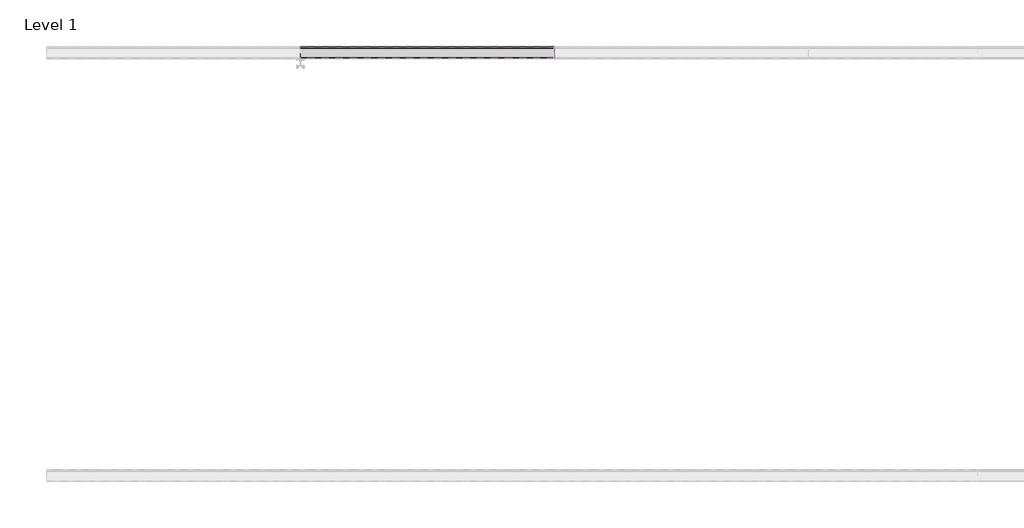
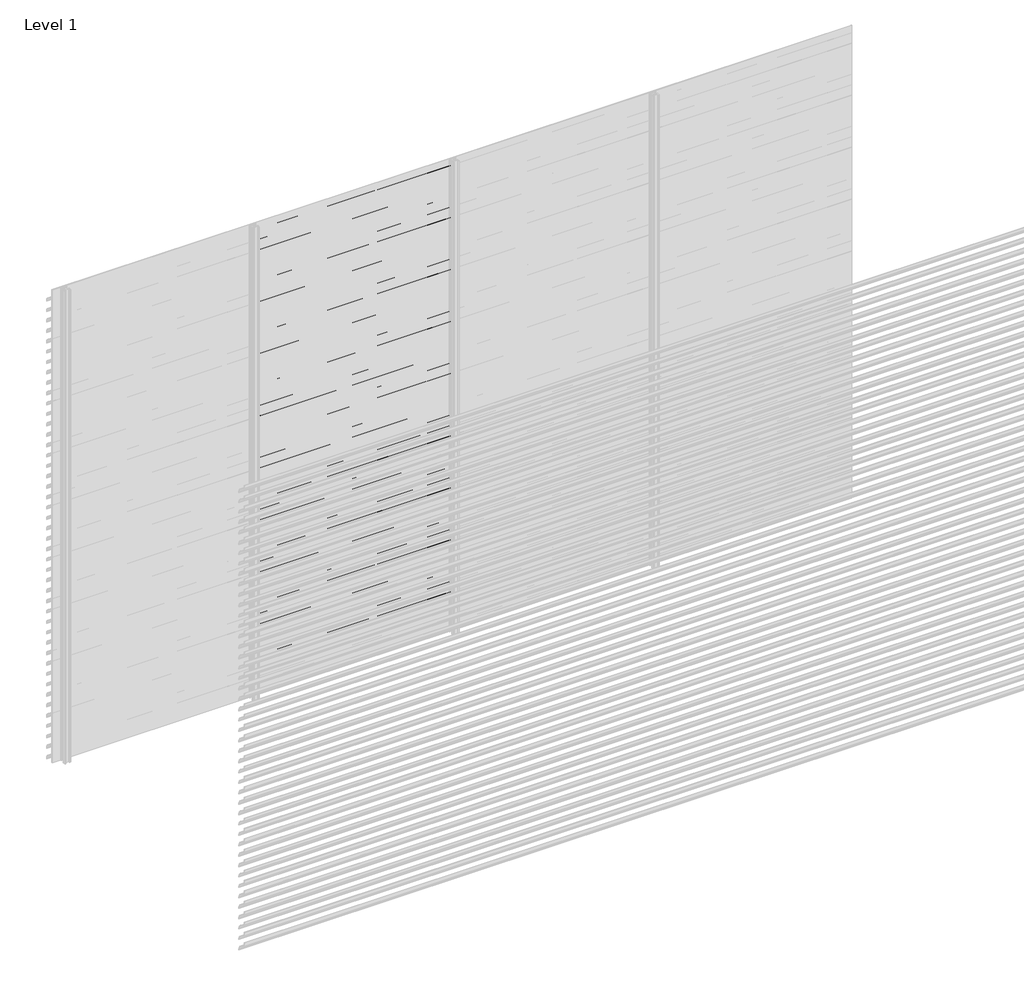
# One storey, part 133 of 540: 43 proxies.
"""IFC4 building model written with IfcOpenShell, lengths in millimetres."""

from ifc_helpers import new_model, si_unit, point, frame, frame_2d, origin, place, context, project, spatial, polyline, circle_curve, trimmed, segment, composite_curve, outline, extrude, element, save

model = new_model("IFC4")

# Units and contexts
model_context = context("Model", 3, world=origin())
ifc_project = project(units=[si_unit("LENGTHUNIT", "METRE", prefix="MILLI")], contexts=[model_context])

# Site, building, storey
site = spatial("IfcSite", under=ifc_project)
building = spatial("IfcBuilding", under=site)
storey = spatial("IfcBuildingStorey", under=building, Name="Level 1", Elevation=0.0)

# Proxies
placement = place(None, origin())
element("IfcBuildingElementProxy", 1, Name="Wall Sweeps", at=placement, inside=storey, context=model_context, shape_type="SweptSolid", body=[
    extrude(outline(composite_curve([segment(trimmed(circle_curve(frame_2d((21513.609548, 2899.7676769)), 26.4944656), [point((21530.5717655, 2920.1205608))], [point((21540.0540136, 2901.3946208))], False, "CARTESIAN"), True, "CONTINUOUS"), segment(polyline([(21540.0540136, 2901.3946208), (21540.0540136, 2893.5), (21538.8040136, 2894.2216933), (21538.8040136, 2899.7676769)]), True, "CONTINUOUS"), segment(trimmed(circle_curve(frame_2d((21513.609548, 2899.7676769)), 25.1944656), [point((21538.8040136, 2899.7676769))], [point((21529.7815085, 2919.086807))], True, "CARTESIAN"), True, "CONTINUOUS"), segment(polyline([(21529.7815085, 2919.086807), (21485.0540136, 2950.3158044), (21485.0540136, 2970.0), (21486.3040136, 2970.0), (21486.3040136, 2951.0285629), (21530.5717655, 2920.1205608)]), True, "CONTINUOUS")], self_intersect=False)), frame((90666.6208099, 0.0, 0.0), z_axis=(1.0, 0.0, 0.0), x_axis=(0.0, 1.0, 0.0)), (0.0, 0.0, 1.0), 1199.9999999),
])
element("IfcBuildingElementProxy", 2, Name="Wall Sweeps", at=placement, inside=storey, context=model_context, shape_type="SweptSolid", body=[
    extrude(outline(composite_curve([segment(trimmed(circle_curve(frame_2d((21513.609548, 2833.7676769)), 26.4944656), [point((21530.5717655, 2854.1205608))], [point((21540.0540136, 2835.3946208))], False, "CARTESIAN"), True, "CONTINUOUS"), segment(polyline([(21540.0540136, 2835.3946208), (21540.0540136, 2827.5), (21538.8040136, 2828.2216933), (21538.8040136, 2833.7676769)]), True, "CONTINUOUS"), segment(trimmed(circle_curve(frame_2d((21513.609548, 2833.7676769)), 25.1944656), [point((21538.8040136, 2833.7676769))], [point((21529.7815085, 2853.086807))], True, "CARTESIAN"), True, "CONTINUOUS"), segment(polyline([(21529.7815085, 2853.086807), (21485.0540136, 2884.3158044), (21485.0540136, 2904.0), (21486.3040136, 2904.0), (21486.3040136, 2885.0285629), (21530.5717655, 2854.1205608)]), True, "CONTINUOUS")], self_intersect=False)), frame((90666.6208099, 0.0, 0.0), z_axis=(1.0, 0.0, 0.0), x_axis=(0.0, 1.0, 0.0)), (0.0, 0.0, 1.0), 1199.9999999),
])
element("IfcBuildingElementProxy", 3, Name="Wall Sweeps", at=placement, inside=storey, context=model_context, shape_type="SweptSolid", body=[
    extrude(outline(composite_curve([segment(trimmed(circle_curve(frame_2d((21513.609548, 2767.7676769)), 26.4944656), [point((21530.5717655, 2788.1205608))], [point((21540.0540136, 2769.3946208))], False, "CARTESIAN"), True, "CONTINUOUS"), segment(polyline([(21540.0540136, 2769.3946208), (21540.0540136, 2761.5), (21538.8040136, 2762.2216933), (21538.8040136, 2767.7676769)]), True, "CONTINUOUS"), segment(trimmed(circle_curve(frame_2d((21513.609548, 2767.7676769)), 25.1944656), [point((21538.8040136, 2767.7676769))], [point((21529.7815085, 2787.086807))], True, "CARTESIAN"), True, "CONTINUOUS"), segment(polyline([(21529.7815085, 2787.086807), (21485.0540136, 2818.3158044), (21485.0540136, 2838.0), (21486.3040136, 2838.0), (21486.3040136, 2819.0285629), (21530.5717655, 2788.1205608)]), True, "CONTINUOUS")], self_intersect=False)), frame((90666.6208099, 0.0, 0.0), z_axis=(1.0, 0.0, 0.0), x_axis=(0.0, 1.0, 0.0)), (0.0, 0.0, 1.0), 1199.9999999),
])
element("IfcBuildingElementProxy", 4, Name="Wall Sweeps", at=placement, inside=storey, context=model_context, shape_type="SweptSolid", body=[
    extrude(outline(composite_curve([segment(trimmed(circle_curve(frame_2d((21513.609548, 2701.7676769)), 26.4944656), [point((21530.5717655, 2722.1205608))], [point((21540.0540136, 2703.3946208))], False, "CARTESIAN"), True, "CONTINUOUS"), segment(polyline([(21540.0540136, 2703.3946208), (21540.0540136, 2695.5), (21538.8040136, 2696.2216933), (21538.8040136, 2701.7676769)]), True, "CONTINUOUS"), segment(trimmed(circle_curve(frame_2d((21513.609548, 2701.7676769)), 25.1944656), [point((21538.8040136, 2701.7676769))], [point((21529.7815085, 2721.086807))], True, "CARTESIAN"), True, "CONTINUOUS"), segment(polyline([(21529.7815085, 2721.086807), (21485.0540136, 2752.3158044), (21485.0540136, 2772.0), (21486.3040136, 2772.0), (21486.3040136, 2753.0285629), (21530.5717655, 2722.1205608)]), True, "CONTINUOUS")], self_intersect=False)), frame((90666.6208099, 0.0, 0.0), z_axis=(1.0, 0.0, 0.0), x_axis=(0.0, 1.0, 0.0)), (0.0, 0.0, 1.0), 1199.9999999),
])
element("IfcBuildingElementProxy", 5, Name="Wall Sweeps", at=placement, inside=storey, context=model_context, shape_type="SweptSolid", body=[
    extrude(outline(composite_curve([segment(trimmed(circle_curve(frame_2d((21513.609548, 2635.7676769)), 26.4944656), [point((21530.5717655, 2656.1205608))], [point((21540.0540136, 2637.3946208))], False, "CARTESIAN"), True, "CONTINUOUS"), segment(polyline([(21540.0540136, 2637.3946208), (21540.0540136, 2629.5), (21538.8040136, 2630.2216933), (21538.8040136, 2635.7676769)]), True, "CONTINUOUS"), segment(trimmed(circle_curve(frame_2d((21513.609548, 2635.7676769)), 25.1944656), [point((21538.8040136, 2635.7676769))], [point((21529.7815085, 2655.086807))], True, "CARTESIAN"), True, "CONTINUOUS"), segment(polyline([(21529.7815085, 2655.086807), (21485.0540136, 2686.3158044), (21485.0540136, 2706.0), (21486.3040136, 2706.0), (21486.3040136, 2687.0285629), (21530.5717655, 2656.1205608)]), True, "CONTINUOUS")], self_intersect=False)), frame((90666.6208099, 0.0, 0.0), z_axis=(1.0, 0.0, 0.0), x_axis=(0.0, 1.0, 0.0)), (0.0, 0.0, 1.0), 1199.9999999),
])
element("IfcBuildingElementProxy", 6, Name="Wall Sweeps", at=placement, inside=storey, context=model_context, shape_type="SweptSolid", body=[
    extrude(outline(composite_curve([segment(trimmed(circle_curve(frame_2d((21513.609548, 2569.7676769)), 26.4944656), [point((21530.5717655, 2590.1205608))], [point((21540.0540136, 2571.3946208))], False, "CARTESIAN"), True, "CONTINUOUS"), segment(polyline([(21540.0540136, 2571.3946208), (21540.0540136, 2563.5), (21538.8040136, 2564.2216933), (21538.8040136, 2569.7676769)]), True, "CONTINUOUS"), segment(trimmed(circle_curve(frame_2d((21513.609548, 2569.7676769)), 25.1944656), [point((21538.8040136, 2569.7676769))], [point((21529.7815085, 2589.086807))], True, "CARTESIAN"), True, "CONTINUOUS"), segment(polyline([(21529.7815085, 2589.086807), (21485.0540136, 2620.3158044), (21485.0540136, 2640.0), (21486.3040136, 2640.0), (21486.3040136, 2621.0285629), (21530.5717655, 2590.1205608)]), True, "CONTINUOUS")], self_intersect=False)), frame((90666.6208099, 0.0, 0.0), z_axis=(1.0, 0.0, 0.0), x_axis=(0.0, 1.0, 0.0)), (0.0, 0.0, 1.0), 1199.9999999),
])
element("IfcBuildingElementProxy", 7, Name="Wall Sweeps", at=placement, inside=storey, context=model_context, shape_type="SweptSolid", body=[
    extrude(outline(composite_curve([segment(trimmed(circle_curve(frame_2d((21513.609548, 2503.7676769)), 26.4944656), [point((21530.5717655, 2524.1205608))], [point((21540.0540136, 2505.3946208))], False, "CARTESIAN"), True, "CONTINUOUS"), segment(polyline([(21540.0540136, 2505.3946208), (21540.0540136, 2497.5), (21538.8040136, 2498.2216933), (21538.8040136, 2503.7676769)]), True, "CONTINUOUS"), segment(trimmed(circle_curve(frame_2d((21513.609548, 2503.7676769)), 25.1944656), [point((21538.8040136, 2503.7676769))], [point((21529.7815085, 2523.086807))], True, "CARTESIAN"), True, "CONTINUOUS"), segment(polyline([(21529.7815085, 2523.086807), (21485.0540136, 2554.3158044), (21485.0540136, 2574.0), (21486.3040136, 2574.0), (21486.3040136, 2555.0285629), (21530.5717655, 2524.1205608)]), True, "CONTINUOUS")], self_intersect=False)), frame((90666.6208099, 0.0, 0.0), z_axis=(1.0, 0.0, 0.0), x_axis=(0.0, 1.0, 0.0)), (0.0, 0.0, 1.0), 1199.9999999),
])
element("IfcBuildingElementProxy", 8, Name="Wall Sweeps", at=placement, inside=storey, context=model_context, shape_type="SweptSolid", body=[
    extrude(outline(composite_curve([segment(trimmed(circle_curve(frame_2d((21513.609548, 2437.7676769)), 26.4944656), [point((21530.5717655, 2458.1205608))], [point((21540.0540136, 2439.3946208))], False, "CARTESIAN"), True, "CONTINUOUS"), segment(polyline([(21540.0540136, 2439.3946208), (21540.0540136, 2431.5), (21538.8040136, 2432.2216933), (21538.8040136, 2437.7676769)]), True, "CONTINUOUS"), segment(trimmed(circle_curve(frame_2d((21513.609548, 2437.7676769)), 25.1944656), [point((21538.8040136, 2437.7676769))], [point((21529.7815085, 2457.086807))], True, "CARTESIAN"), True, "CONTINUOUS"), segment(polyline([(21529.7815085, 2457.086807), (21485.0540136, 2488.3158044), (21485.0540136, 2508.0), (21486.3040136, 2508.0), (21486.3040136, 2489.0285629), (21530.5717655, 2458.1205608)]), True, "CONTINUOUS")], self_intersect=False)), frame((90666.6208099, 0.0, 0.0), z_axis=(1.0, 0.0, 0.0), x_axis=(0.0, 1.0, 0.0)), (0.0, 0.0, 1.0), 1199.9999999),
])
element("IfcBuildingElementProxy", 9, Name="Wall Sweeps", at=placement, inside=storey, context=model_context, shape_type="SweptSolid", body=[
    extrude(outline(composite_curve([segment(trimmed(circle_curve(frame_2d((21513.609548, 2371.7676769)), 26.4944656), [point((21530.5717655, 2392.1205608))], [point((21540.0540136, 2373.3946208))], False, "CARTESIAN"), True, "CONTINUOUS"), segment(polyline([(21540.0540136, 2373.3946208), (21540.0540136, 2365.5), (21538.8040136, 2366.2216933), (21538.8040136, 2371.7676769)]), True, "CONTINUOUS"), segment(trimmed(circle_curve(frame_2d((21513.609548, 2371.7676769)), 25.1944656), [point((21538.8040136, 2371.7676769))], [point((21529.7815085, 2391.086807))], True, "CARTESIAN"), True, "CONTINUOUS"), segment(polyline([(21529.7815085, 2391.086807), (21485.0540136, 2422.3158044), (21485.0540136, 2442.0), (21486.3040136, 2442.0), (21486.3040136, 2423.0285629), (21530.5717655, 2392.1205608)]), True, "CONTINUOUS")], self_intersect=False)), frame((90666.6208099, 0.0, 0.0), z_axis=(1.0, 0.0, 0.0), x_axis=(0.0, 1.0, 0.0)), (0.0, 0.0, 1.0), 1199.9999999),
])
element("IfcBuildingElementProxy", 10, Name="Wall Sweeps", at=placement, inside=storey, context=model_context, shape_type="SweptSolid", body=[
    extrude(outline(composite_curve([segment(trimmed(circle_curve(frame_2d((21513.609548, 2305.7676769)), 26.4944656), [point((21530.5717655, 2326.1205608))], [point((21540.0540136, 2307.3946208))], False, "CARTESIAN"), True, "CONTINUOUS"), segment(polyline([(21540.0540136, 2307.3946208), (21540.0540136, 2299.5), (21538.8040136, 2300.2216933), (21538.8040136, 2305.7676769)]), True, "CONTINUOUS"), segment(trimmed(circle_curve(frame_2d((21513.609548, 2305.7676769)), 25.1944656), [point((21538.8040136, 2305.7676769))], [point((21529.7815085, 2325.086807))], True, "CARTESIAN"), True, "CONTINUOUS"), segment(polyline([(21529.7815085, 2325.086807), (21485.0540136, 2356.3158044), (21485.0540136, 2376.0), (21486.3040136, 2376.0), (21486.3040136, 2357.0285629), (21530.5717655, 2326.1205608)]), True, "CONTINUOUS")], self_intersect=False)), frame((90666.6208099, 0.0, 0.0), z_axis=(1.0, 0.0, 0.0), x_axis=(0.0, 1.0, 0.0)), (0.0, 0.0, 1.0), 1199.9999999),
])
element("IfcBuildingElementProxy", 11, Name="Wall Sweeps", at=placement, inside=storey, context=model_context, shape_type="SweptSolid", body=[
    extrude(outline(composite_curve([segment(trimmed(circle_curve(frame_2d((21513.609548, 2239.7676769)), 26.4944656), [point((21530.5717655, 2260.1205608))], [point((21540.0540136, 2241.3946208))], False, "CARTESIAN"), True, "CONTINUOUS"), segment(polyline([(21540.0540136, 2241.3946208), (21540.0540136, 2233.5), (21538.8040136, 2234.2216933), (21538.8040136, 2239.7676769)]), True, "CONTINUOUS"), segment(trimmed(circle_curve(frame_2d((21513.609548, 2239.7676769)), 25.1944656), [point((21538.8040136, 2239.7676769))], [point((21529.7815085, 2259.086807))], True, "CARTESIAN"), True, "CONTINUOUS"), segment(polyline([(21529.7815085, 2259.086807), (21485.0540136, 2290.3158044), (21485.0540136, 2310.0), (21486.3040136, 2310.0), (21486.3040136, 2291.0285629), (21530.5717655, 2260.1205608)]), True, "CONTINUOUS")], self_intersect=False)), frame((90666.6208099, 0.0, 0.0), z_axis=(1.0, 0.0, 0.0), x_axis=(0.0, 1.0, 0.0)), (0.0, 0.0, 1.0), 1199.9999999),
])
element("IfcBuildingElementProxy", 12, Name="Wall Sweeps", at=placement, inside=storey, context=model_context, shape_type="SweptSolid", body=[
    extrude(outline(composite_curve([segment(trimmed(circle_curve(frame_2d((21513.609548, 2173.7676769)), 26.4944656), [point((21530.5717655, 2194.1205608))], [point((21540.0540136, 2175.3946208))], False, "CARTESIAN"), True, "CONTINUOUS"), segment(polyline([(21540.0540136, 2175.3946208), (21540.0540136, 2167.5), (21538.8040136, 2168.2216933), (21538.8040136, 2173.7676769)]), True, "CONTINUOUS"), segment(trimmed(circle_curve(frame_2d((21513.609548, 2173.7676769)), 25.1944656), [point((21538.8040136, 2173.7676769))], [point((21529.7815085, 2193.086807))], True, "CARTESIAN"), True, "CONTINUOUS"), segment(polyline([(21529.7815085, 2193.086807), (21485.0540136, 2224.3158044), (21485.0540136, 2244.0), (21486.3040136, 2244.0), (21486.3040136, 2225.0285629), (21530.5717655, 2194.1205608)]), True, "CONTINUOUS")], self_intersect=False)), frame((90666.6208099, 0.0, 0.0), z_axis=(1.0, 0.0, 0.0), x_axis=(0.0, 1.0, 0.0)), (0.0, 0.0, 1.0), 1199.9999999),
])
element("IfcBuildingElementProxy", 13, Name="Wall Sweeps", at=placement, inside=storey, context=model_context, shape_type="SweptSolid", body=[
    extrude(outline(composite_curve([segment(trimmed(circle_curve(frame_2d((21513.609548, 2107.7676769)), 26.4944656), [point((21530.5717655, 2128.1205608))], [point((21540.0540136, 2109.3946208))], False, "CARTESIAN"), True, "CONTINUOUS"), segment(polyline([(21540.0540136, 2109.3946208), (21540.0540136, 2101.5), (21538.8040136, 2102.2216933), (21538.8040136, 2107.7676769)]), True, "CONTINUOUS"), segment(trimmed(circle_curve(frame_2d((21513.609548, 2107.7676769)), 25.1944656), [point((21538.8040136, 2107.7676769))], [point((21529.7815085, 2127.086807))], True, "CARTESIAN"), True, "CONTINUOUS"), segment(polyline([(21529.7815085, 2127.086807), (21485.0540136, 2158.3158044), (21485.0540136, 2178.0), (21486.3040136, 2178.0), (21486.3040136, 2159.0285629), (21530.5717655, 2128.1205608)]), True, "CONTINUOUS")], self_intersect=False)), frame((90666.6208099, 0.0, 0.0), z_axis=(1.0, 0.0, 0.0), x_axis=(0.0, 1.0, 0.0)), (0.0, 0.0, 1.0), 1199.9999999),
])
element("IfcBuildingElementProxy", 14, Name="Wall Sweeps", at=placement, inside=storey, context=model_context, shape_type="SweptSolid", body=[
    extrude(outline(composite_curve([segment(trimmed(circle_curve(frame_2d((21513.609548, 2041.7676769)), 26.4944656), [point((21530.5717655, 2062.1205608))], [point((21540.0540136, 2043.3946208))], False, "CARTESIAN"), True, "CONTINUOUS"), segment(polyline([(21540.0540136, 2043.3946208), (21540.0540136, 2035.5), (21538.8040136, 2036.2216933), (21538.8040136, 2041.7676769)]), True, "CONTINUOUS"), segment(trimmed(circle_curve(frame_2d((21513.609548, 2041.7676769)), 25.1944656), [point((21538.8040136, 2041.7676769))], [point((21529.7815085, 2061.086807))], True, "CARTESIAN"), True, "CONTINUOUS"), segment(polyline([(21529.7815085, 2061.086807), (21485.0540136, 2092.3158044), (21485.0540136, 2112.0), (21486.3040136, 2112.0), (21486.3040136, 2093.0285629), (21530.5717655, 2062.1205608)]), True, "CONTINUOUS")], self_intersect=False)), frame((90666.6208099, 0.0, 0.0), z_axis=(1.0, 0.0, 0.0), x_axis=(0.0, 1.0, 0.0)), (0.0, 0.0, 1.0), 1199.9999999),
])
element("IfcBuildingElementProxy", 15, Name="Wall Sweeps", at=placement, inside=storey, context=model_context, shape_type="SweptSolid", body=[
    extrude(outline(composite_curve([segment(trimmed(circle_curve(frame_2d((21513.609548, 1975.7676769)), 26.4944656), [point((21530.5717655, 1996.1205608))], [point((21540.0540136, 1977.3946208))], False, "CARTESIAN"), True, "CONTINUOUS"), segment(polyline([(21540.0540136, 1977.3946208), (21540.0540136, 1969.5), (21538.8040136, 1970.2216933), (21538.8040136, 1975.7676769)]), True, "CONTINUOUS"), segment(trimmed(circle_curve(frame_2d((21513.609548, 1975.7676769)), 25.1944656), [point((21538.8040136, 1975.7676769))], [point((21529.7815085, 1995.086807))], True, "CARTESIAN"), True, "CONTINUOUS"), segment(polyline([(21529.7815085, 1995.086807), (21485.0540136, 2026.3158044), (21485.0540136, 2046.0), (21486.3040136, 2046.0), (21486.3040136, 2027.0285629), (21530.5717655, 1996.1205608)]), True, "CONTINUOUS")], self_intersect=False)), frame((90666.6208099, 0.0, 0.0), z_axis=(1.0, 0.0, 0.0), x_axis=(0.0, 1.0, 0.0)), (0.0, 0.0, 1.0), 1199.9999999),
])
element("IfcBuildingElementProxy", 16, Name="Wall Sweeps", at=placement, inside=storey, context=model_context, shape_type="SweptSolid", body=[
    extrude(outline(composite_curve([segment(trimmed(circle_curve(frame_2d((21513.609548, 1909.7676769)), 26.4944656), [point((21530.5717655, 1930.1205608))], [point((21540.0540136, 1911.3946208))], False, "CARTESIAN"), True, "CONTINUOUS"), segment(polyline([(21540.0540136, 1911.3946208), (21540.0540136, 1903.5), (21538.8040136, 1904.2216933), (21538.8040136, 1909.7676769)]), True, "CONTINUOUS"), segment(trimmed(circle_curve(frame_2d((21513.609548, 1909.7676769)), 25.1944656), [point((21538.8040136, 1909.7676769))], [point((21529.7815085, 1929.086807))], True, "CARTESIAN"), True, "CONTINUOUS"), segment(polyline([(21529.7815085, 1929.086807), (21485.0540136, 1960.3158044), (21485.0540136, 1980.0), (21486.3040136, 1980.0), (21486.3040136, 1961.0285629), (21530.5717655, 1930.1205608)]), True, "CONTINUOUS")], self_intersect=False)), frame((90666.6208099, 0.0, 0.0), z_axis=(1.0, 0.0, 0.0), x_axis=(0.0, 1.0, 0.0)), (0.0, 0.0, 1.0), 1199.9999999),
])
element("IfcBuildingElementProxy", 17, Name="Wall Sweeps", at=placement, inside=storey, context=model_context, shape_type="SweptSolid", body=[
    extrude(outline(composite_curve([segment(trimmed(circle_curve(frame_2d((21513.609548, 1843.7676769)), 26.4944656), [point((21530.5717655, 1864.1205608))], [point((21540.0540136, 1845.3946208))], False, "CARTESIAN"), True, "CONTINUOUS"), segment(polyline([(21540.0540136, 1845.3946208), (21540.0540136, 1837.5), (21538.8040136, 1838.2216933), (21538.8040136, 1843.7676769)]), True, "CONTINUOUS"), segment(trimmed(circle_curve(frame_2d((21513.609548, 1843.7676769)), 25.1944656), [point((21538.8040136, 1843.7676769))], [point((21529.7815085, 1863.086807))], True, "CARTESIAN"), True, "CONTINUOUS"), segment(polyline([(21529.7815085, 1863.086807), (21485.0540136, 1894.3158044), (21485.0540136, 1914.0), (21486.3040136, 1914.0), (21486.3040136, 1895.0285629), (21530.5717655, 1864.1205608)]), True, "CONTINUOUS")], self_intersect=False)), frame((90666.6208099, 0.0, 0.0), z_axis=(1.0, 0.0, 0.0), x_axis=(0.0, 1.0, 0.0)), (0.0, 0.0, 1.0), 1199.9999999),
])
element("IfcBuildingElementProxy", 18, Name="Wall Sweeps", at=placement, inside=storey, context=model_context, shape_type="SweptSolid", body=[
    extrude(outline(composite_curve([segment(trimmed(circle_curve(frame_2d((21513.609548, 1777.7676769)), 26.4944656), [point((21530.5717655, 1798.1205608))], [point((21540.0540136, 1779.3946208))], False, "CARTESIAN"), True, "CONTINUOUS"), segment(polyline([(21540.0540136, 1779.3946208), (21540.0540136, 1771.5), (21538.8040136, 1772.2216933), (21538.8040136, 1777.7676769)]), True, "CONTINUOUS"), segment(trimmed(circle_curve(frame_2d((21513.609548, 1777.7676769)), 25.1944656), [point((21538.8040136, 1777.7676769))], [point((21529.7815085, 1797.086807))], True, "CARTESIAN"), True, "CONTINUOUS"), segment(polyline([(21529.7815085, 1797.086807), (21485.0540136, 1828.3158044), (21485.0540136, 1848.0), (21486.3040136, 1848.0), (21486.3040136, 1829.0285629), (21530.5717655, 1798.1205608)]), True, "CONTINUOUS")], self_intersect=False)), frame((90666.6208099, 0.0, 0.0), z_axis=(1.0, 0.0, 0.0), x_axis=(0.0, 1.0, 0.0)), (0.0, 0.0, 1.0), 1199.9999999),
])
element("IfcBuildingElementProxy", 19, Name="Wall Sweeps", at=placement, inside=storey, context=model_context, shape_type="SweptSolid", body=[
    extrude(outline(composite_curve([segment(trimmed(circle_curve(frame_2d((21513.609548, 1711.7676769)), 26.4944656), [point((21530.5717655, 1732.1205608))], [point((21540.0540136, 1713.3946208))], False, "CARTESIAN"), True, "CONTINUOUS"), segment(polyline([(21540.0540136, 1713.3946208), (21540.0540136, 1705.5), (21538.8040136, 1706.2216933), (21538.8040136, 1711.7676769)]), True, "CONTINUOUS"), segment(trimmed(circle_curve(frame_2d((21513.609548, 1711.7676769)), 25.1944656), [point((21538.8040136, 1711.7676769))], [point((21529.7815085, 1731.086807))], True, "CARTESIAN"), True, "CONTINUOUS"), segment(polyline([(21529.7815085, 1731.086807), (21485.0540136, 1762.3158044), (21485.0540136, 1782.0), (21486.3040136, 1782.0), (21486.3040136, 1763.0285629), (21530.5717655, 1732.1205608)]), True, "CONTINUOUS")], self_intersect=False)), frame((90666.6208099, 0.0, 0.0), z_axis=(1.0, 0.0, 0.0), x_axis=(0.0, 1.0, 0.0)), (0.0, 0.0, 1.0), 1199.9999999),
])
element("IfcBuildingElementProxy", 20, Name="Wall Sweeps", at=placement, inside=storey, context=model_context, shape_type="SweptSolid", body=[
    extrude(outline(composite_curve([segment(trimmed(circle_curve(frame_2d((21513.609548, 1645.7676769)), 26.4944656), [point((21530.5717655, 1666.1205608))], [point((21540.0540136, 1647.3946208))], False, "CARTESIAN"), True, "CONTINUOUS"), segment(polyline([(21540.0540136, 1647.3946208), (21540.0540136, 1639.5), (21538.8040136, 1640.2216933), (21538.8040136, 1645.7676769)]), True, "CONTINUOUS"), segment(trimmed(circle_curve(frame_2d((21513.609548, 1645.7676769)), 25.1944656), [point((21538.8040136, 1645.7676769))], [point((21529.7815085, 1665.086807))], True, "CARTESIAN"), True, "CONTINUOUS"), segment(polyline([(21529.7815085, 1665.086807), (21485.0540136, 1696.3158044), (21485.0540136, 1716.0), (21486.3040136, 1716.0), (21486.3040136, 1697.0285629), (21530.5717655, 1666.1205608)]), True, "CONTINUOUS")], self_intersect=False)), frame((90666.6208099, 0.0, 0.0), z_axis=(1.0, 0.0, 0.0), x_axis=(0.0, 1.0, 0.0)), (0.0, 0.0, 1.0), 1199.9999999),
])
element("IfcBuildingElementProxy", 21, Name="Wall Sweeps", at=placement, inside=storey, context=model_context, shape_type="SweptSolid", body=[
    extrude(outline(composite_curve([segment(trimmed(circle_curve(frame_2d((21513.609548, 1579.7676769)), 26.4944656), [point((21530.5717655, 1600.1205608))], [point((21540.0540136, 1581.3946208))], False, "CARTESIAN"), True, "CONTINUOUS"), segment(polyline([(21540.0540136, 1581.3946208), (21540.0540136, 1573.5), (21538.8040136, 1574.2216933), (21538.8040136, 1579.7676769)]), True, "CONTINUOUS"), segment(trimmed(circle_curve(frame_2d((21513.609548, 1579.7676769)), 25.1944656), [point((21538.8040136, 1579.7676769))], [point((21529.7815085, 1599.086807))], True, "CARTESIAN"), True, "CONTINUOUS"), segment(polyline([(21529.7815085, 1599.086807), (21485.0540136, 1630.3158044), (21485.0540136, 1650.0), (21486.3040136, 1650.0), (21486.3040136, 1631.0285629), (21530.5717655, 1600.1205608)]), True, "CONTINUOUS")], self_intersect=False)), frame((90666.6208099, 0.0, 0.0), z_axis=(1.0, 0.0, 0.0), x_axis=(0.0, 1.0, 0.0)), (0.0, 0.0, 1.0), 1199.9999999),
])
element("IfcBuildingElementProxy", 22, Name="Wall Sweeps", at=placement, inside=storey, context=model_context, shape_type="SweptSolid", body=[
    extrude(outline(composite_curve([segment(trimmed(circle_curve(frame_2d((21513.609548, 1513.7676769)), 26.4944656), [point((21530.5717655, 1534.1205608))], [point((21540.0540136, 1515.3946208))], False, "CARTESIAN"), True, "CONTINUOUS"), segment(polyline([(21540.0540136, 1515.3946208), (21540.0540136, 1507.5), (21538.8040136, 1508.2216933), (21538.8040136, 1513.7676769)]), True, "CONTINUOUS"), segment(trimmed(circle_curve(frame_2d((21513.609548, 1513.7676769)), 25.1944656), [point((21538.8040136, 1513.7676769))], [point((21529.7815085, 1533.086807))], True, "CARTESIAN"), True, "CONTINUOUS"), segment(polyline([(21529.7815085, 1533.086807), (21485.0540136, 1564.3158044), (21485.0540136, 1584.0), (21486.3040136, 1584.0), (21486.3040136, 1565.0285629), (21530.5717655, 1534.1205608)]), True, "CONTINUOUS")], self_intersect=False)), frame((90666.6208099, 0.0, 0.0), z_axis=(1.0, 0.0, 0.0), x_axis=(0.0, 1.0, 0.0)), (0.0, 0.0, 1.0), 1199.9999999),
])
element("IfcBuildingElementProxy", 23, Name="Wall Sweeps", at=placement, inside=storey, context=model_context, shape_type="SweptSolid", body=[
    extrude(outline(composite_curve([segment(trimmed(circle_curve(frame_2d((21513.609548, 1447.7676769)), 26.4944656), [point((21530.5717655, 1468.1205608))], [point((21540.0540136, 1449.3946208))], False, "CARTESIAN"), True, "CONTINUOUS"), segment(polyline([(21540.0540136, 1449.3946208), (21540.0540136, 1441.5), (21538.8040136, 1442.2216933), (21538.8040136, 1447.7676769)]), True, "CONTINUOUS"), segment(trimmed(circle_curve(frame_2d((21513.609548, 1447.7676769)), 25.1944656), [point((21538.8040136, 1447.7676769))], [point((21529.7815085, 1467.086807))], True, "CARTESIAN"), True, "CONTINUOUS"), segment(polyline([(21529.7815085, 1467.086807), (21485.0540136, 1498.3158044), (21485.0540136, 1518.0), (21486.3040136, 1518.0), (21486.3040136, 1499.0285629), (21530.5717655, 1468.1205608)]), True, "CONTINUOUS")], self_intersect=False)), frame((90666.6208099, 0.0, 0.0), z_axis=(1.0, 0.0, 0.0), x_axis=(0.0, 1.0, 0.0)), (0.0, 0.0, 1.0), 1199.9999999),
])
element("IfcBuildingElementProxy", 24, Name="Wall Sweeps", at=placement, inside=storey, context=model_context, shape_type="SweptSolid", body=[
    extrude(outline(composite_curve([segment(trimmed(circle_curve(frame_2d((21513.609548, 1381.7676769)), 26.4944656), [point((21530.5717655, 1402.1205608))], [point((21540.0540136, 1383.3946208))], False, "CARTESIAN"), True, "CONTINUOUS"), segment(polyline([(21540.0540136, 1383.3946208), (21540.0540136, 1375.5), (21538.8040136, 1376.2216933), (21538.8040136, 1381.7676769)]), True, "CONTINUOUS"), segment(trimmed(circle_curve(frame_2d((21513.609548, 1381.7676769)), 25.1944656), [point((21538.8040136, 1381.7676769))], [point((21529.7815085, 1401.086807))], True, "CARTESIAN"), True, "CONTINUOUS"), segment(polyline([(21529.7815085, 1401.086807), (21485.0540136, 1432.3158044), (21485.0540136, 1452.0), (21486.3040136, 1452.0), (21486.3040136, 1433.0285629), (21530.5717655, 1402.1205608)]), True, "CONTINUOUS")], self_intersect=False)), frame((90666.6208099, 0.0, 0.0), z_axis=(1.0, 0.0, 0.0), x_axis=(0.0, 1.0, 0.0)), (0.0, 0.0, 1.0), 1199.9999999),
])
element("IfcBuildingElementProxy", 25, Name="Wall Sweeps", at=placement, inside=storey, context=model_context, shape_type="SweptSolid", body=[
    extrude(outline(composite_curve([segment(trimmed(circle_curve(frame_2d((21513.609548, 1315.7676769)), 26.4944656), [point((21530.5717655, 1336.1205608))], [point((21540.0540136, 1317.3946208))], False, "CARTESIAN"), True, "CONTINUOUS"), segment(polyline([(21540.0540136, 1317.3946208), (21540.0540136, 1309.5), (21538.8040136, 1310.2216933), (21538.8040136, 1315.7676769)]), True, "CONTINUOUS"), segment(trimmed(circle_curve(frame_2d((21513.609548, 1315.7676769)), 25.1944656), [point((21538.8040136, 1315.7676769))], [point((21529.7815085, 1335.086807))], True, "CARTESIAN"), True, "CONTINUOUS"), segment(polyline([(21529.7815085, 1335.086807), (21485.0540136, 1366.3158044), (21485.0540136, 1386.0), (21486.3040136, 1386.0), (21486.3040136, 1367.0285629), (21530.5717655, 1336.1205608)]), True, "CONTINUOUS")], self_intersect=False)), frame((90666.6208099, 0.0, 0.0), z_axis=(1.0, 0.0, 0.0), x_axis=(0.0, 1.0, 0.0)), (0.0, 0.0, 1.0), 1199.9999999),
])
element("IfcBuildingElementProxy", 26, Name="Wall Sweeps", at=placement, inside=storey, context=model_context, shape_type="SweptSolid", body=[
    extrude(outline(composite_curve([segment(trimmed(circle_curve(frame_2d((21513.609548, 1249.7676769)), 26.4944656), [point((21530.5717655, 1270.1205608))], [point((21540.0540136, 1251.3946208))], False, "CARTESIAN"), True, "CONTINUOUS"), segment(polyline([(21540.0540136, 1251.3946208), (21540.0540136, 1243.5), (21538.8040136, 1244.2216933), (21538.8040136, 1249.7676769)]), True, "CONTINUOUS"), segment(trimmed(circle_curve(frame_2d((21513.609548, 1249.7676769)), 25.1944656), [point((21538.8040136, 1249.7676769))], [point((21529.7815085, 1269.086807))], True, "CARTESIAN"), True, "CONTINUOUS"), segment(polyline([(21529.7815085, 1269.086807), (21485.0540136, 1300.3158044), (21485.0540136, 1320.0), (21486.3040136, 1320.0), (21486.3040136, 1301.0285629), (21530.5717655, 1270.1205608)]), True, "CONTINUOUS")], self_intersect=False)), frame((90666.6208099, 0.0, 0.0), z_axis=(1.0, 0.0, 0.0), x_axis=(0.0, 1.0, 0.0)), (0.0, 0.0, 1.0), 1199.9999999),
])
element("IfcBuildingElementProxy", 27, Name="Wall Sweeps", at=placement, inside=storey, context=model_context, shape_type="SweptSolid", body=[
    extrude(outline(composite_curve([segment(trimmed(circle_curve(frame_2d((21513.609548, 1183.7676769)), 26.4944656), [point((21530.5717655, 1204.1205608))], [point((21540.0540136, 1185.3946208))], False, "CARTESIAN"), True, "CONTINUOUS"), segment(polyline([(21540.0540136, 1185.3946208), (21540.0540136, 1177.5), (21538.8040136, 1178.2216933), (21538.8040136, 1183.7676769)]), True, "CONTINUOUS"), segment(trimmed(circle_curve(frame_2d((21513.609548, 1183.7676769)), 25.1944656), [point((21538.8040136, 1183.7676769))], [point((21529.7815085, 1203.086807))], True, "CARTESIAN"), True, "CONTINUOUS"), segment(polyline([(21529.7815085, 1203.086807), (21485.0540136, 1234.3158044), (21485.0540136, 1254.0), (21486.3040136, 1254.0), (21486.3040136, 1235.0285629), (21530.5717655, 1204.1205608)]), True, "CONTINUOUS")], self_intersect=False)), frame((90666.6208099, 0.0, 0.0), z_axis=(1.0, 0.0, 0.0), x_axis=(0.0, 1.0, 0.0)), (0.0, 0.0, 1.0), 1199.9999999),
])
element("IfcBuildingElementProxy", 28, Name="Wall Sweeps", at=placement, inside=storey, context=model_context, shape_type="SweptSolid", body=[
    extrude(outline(composite_curve([segment(trimmed(circle_curve(frame_2d((21513.609548, 1117.7676769)), 26.4944656), [point((21530.5717655, 1138.1205608))], [point((21540.0540136, 1119.3946208))], False, "CARTESIAN"), True, "CONTINUOUS"), segment(polyline([(21540.0540136, 1119.3946208), (21540.0540136, 1111.5), (21538.8040136, 1112.2216933), (21538.8040136, 1117.7676769)]), True, "CONTINUOUS"), segment(trimmed(circle_curve(frame_2d((21513.609548, 1117.7676769)), 25.1944656), [point((21538.8040136, 1117.7676769))], [point((21529.7815085, 1137.086807))], True, "CARTESIAN"), True, "CONTINUOUS"), segment(polyline([(21529.7815085, 1137.086807), (21485.0540136, 1168.3158044), (21485.0540136, 1188.0), (21486.3040136, 1188.0), (21486.3040136, 1169.0285629), (21530.5717655, 1138.1205608)]), True, "CONTINUOUS")], self_intersect=False)), frame((90666.6208099, 0.0, 0.0), z_axis=(1.0, 0.0, 0.0), x_axis=(0.0, 1.0, 0.0)), (0.0, 0.0, 1.0), 1199.9999999),
])
element("IfcBuildingElementProxy", 29, Name="Wall Sweeps", at=placement, inside=storey, context=model_context, shape_type="SweptSolid", body=[
    extrude(outline(composite_curve([segment(trimmed(circle_curve(frame_2d((21513.609548, 1051.7676769)), 26.4944656), [point((21530.5717655, 1072.1205608))], [point((21540.0540136, 1053.3946208))], False, "CARTESIAN"), True, "CONTINUOUS"), segment(polyline([(21540.0540136, 1053.3946208), (21540.0540136, 1045.5), (21538.8040136, 1046.2216933), (21538.8040136, 1051.7676769)]), True, "CONTINUOUS"), segment(trimmed(circle_curve(frame_2d((21513.609548, 1051.7676769)), 25.1944656), [point((21538.8040136, 1051.7676769))], [point((21529.7815085, 1071.086807))], True, "CARTESIAN"), True, "CONTINUOUS"), segment(polyline([(21529.7815085, 1071.086807), (21485.0540136, 1102.3158044), (21485.0540136, 1122.0), (21486.3040136, 1122.0), (21486.3040136, 1103.0285629), (21530.5717655, 1072.1205608)]), True, "CONTINUOUS")], self_intersect=False)), frame((90666.6208099, 0.0, 0.0), z_axis=(1.0, 0.0, 0.0), x_axis=(0.0, 1.0, 0.0)), (0.0, 0.0, 1.0), 1199.9999999),
])
element("IfcBuildingElementProxy", 30, Name="Wall Sweeps", at=placement, inside=storey, context=model_context, shape_type="SweptSolid", body=[
    extrude(outline(composite_curve([segment(trimmed(circle_curve(frame_2d((21513.609548, 985.7676769)), 26.4944656), [point((21530.5717655, 1006.1205608))], [point((21540.0540136, 987.3946208))], False, "CARTESIAN"), True, "CONTINUOUS"), segment(polyline([(21540.0540136, 987.3946208), (21540.0540136, 979.5), (21538.8040136, 980.2216933), (21538.8040136, 985.7676769)]), True, "CONTINUOUS"), segment(trimmed(circle_curve(frame_2d((21513.609548, 985.7676769)), 25.1944656), [point((21538.8040136, 985.7676769))], [point((21529.7815085, 1005.086807))], True, "CARTESIAN"), True, "CONTINUOUS"), segment(polyline([(21529.7815085, 1005.086807), (21485.0540136, 1036.3158044), (21485.0540136, 1056.0), (21486.3040136, 1056.0), (21486.3040136, 1037.0285629), (21530.5717655, 1006.1205608)]), True, "CONTINUOUS")], self_intersect=False)), frame((90666.6208099, 0.0, 0.0), z_axis=(1.0, 0.0, 0.0), x_axis=(0.0, 1.0, 0.0)), (0.0, 0.0, 1.0), 1199.9999999),
])
element("IfcBuildingElementProxy", 31, Name="Wall Sweeps", at=placement, inside=storey, context=model_context, shape_type="SweptSolid", body=[
    extrude(outline(composite_curve([segment(trimmed(circle_curve(frame_2d((21513.609548, 919.7676769)), 26.4944656), [point((21530.5717655, 940.1205608))], [point((21540.0540136, 921.3946208))], False, "CARTESIAN"), True, "CONTINUOUS"), segment(polyline([(21540.0540136, 921.3946208), (21540.0540136, 913.5), (21538.8040136, 914.2216933), (21538.8040136, 919.7676769)]), True, "CONTINUOUS"), segment(trimmed(circle_curve(frame_2d((21513.609548, 919.7676769)), 25.1944656), [point((21538.8040136, 919.7676769))], [point((21529.7815085, 939.086807))], True, "CARTESIAN"), True, "CONTINUOUS"), segment(polyline([(21529.7815085, 939.086807), (21485.0540136, 970.3158044), (21485.0540136, 990.0), (21486.3040136, 990.0), (21486.3040136, 971.0285629), (21530.5717655, 940.1205608)]), True, "CONTINUOUS")], self_intersect=False)), frame((90666.6208099, 0.0, 0.0), z_axis=(1.0, 0.0, 0.0), x_axis=(0.0, 1.0, 0.0)), (0.0, 0.0, 1.0), 1199.9999999),
])
element("IfcBuildingElementProxy", 32, Name="Wall Sweeps", at=placement, inside=storey, context=model_context, shape_type="SweptSolid", body=[
    extrude(outline(composite_curve([segment(trimmed(circle_curve(frame_2d((21513.609548, 853.7676769)), 26.4944656), [point((21530.5717655, 874.1205608))], [point((21540.0540136, 855.3946208))], False, "CARTESIAN"), True, "CONTINUOUS"), segment(polyline([(21540.0540136, 855.3946208), (21540.0540136, 847.5), (21538.8040136, 848.2216933), (21538.8040136, 853.7676769)]), True, "CONTINUOUS"), segment(trimmed(circle_curve(frame_2d((21513.609548, 853.7676769)), 25.1944656), [point((21538.8040136, 853.7676769))], [point((21529.7815085, 873.086807))], True, "CARTESIAN"), True, "CONTINUOUS"), segment(polyline([(21529.7815085, 873.086807), (21485.0540136, 904.3158044), (21485.0540136, 924.0), (21486.3040136, 924.0), (21486.3040136, 905.0285629), (21530.5717655, 874.1205608)]), True, "CONTINUOUS")], self_intersect=False)), frame((90666.6208099, 0.0, 0.0), z_axis=(1.0, 0.0, 0.0), x_axis=(0.0, 1.0, 0.0)), (0.0, 0.0, 1.0), 1199.9999999),
])
element("IfcBuildingElementProxy", 33, Name="Wall Sweeps", at=placement, inside=storey, context=model_context, shape_type="SweptSolid", body=[
    extrude(outline(composite_curve([segment(trimmed(circle_curve(frame_2d((21513.609548, 787.7676769)), 26.4944656), [point((21530.5717655, 808.1205608))], [point((21540.0540136, 789.3946208))], False, "CARTESIAN"), True, "CONTINUOUS"), segment(polyline([(21540.0540136, 789.3946208), (21540.0540136, 781.5), (21538.8040136, 782.2216933), (21538.8040136, 787.7676769)]), True, "CONTINUOUS"), segment(trimmed(circle_curve(frame_2d((21513.609548, 787.7676769)), 25.1944656), [point((21538.8040136, 787.7676769))], [point((21529.7815085, 807.086807))], True, "CARTESIAN"), True, "CONTINUOUS"), segment(polyline([(21529.7815085, 807.086807), (21485.0540136, 838.3158044), (21485.0540136, 858.0), (21486.3040136, 858.0), (21486.3040136, 839.0285629), (21530.5717655, 808.1205608)]), True, "CONTINUOUS")], self_intersect=False)), frame((90666.6208099, 0.0, 0.0), z_axis=(1.0, 0.0, 0.0), x_axis=(0.0, 1.0, 0.0)), (0.0, 0.0, 1.0), 1199.9999999),
])
element("IfcBuildingElementProxy", 34, Name="Wall Sweeps", at=placement, inside=storey, context=model_context, shape_type="SweptSolid", body=[
    extrude(outline(composite_curve([segment(trimmed(circle_curve(frame_2d((21513.609548, 721.7676769)), 26.4944656), [point((21530.5717655, 742.1205608))], [point((21540.0540136, 723.3946208))], False, "CARTESIAN"), True, "CONTINUOUS"), segment(polyline([(21540.0540136, 723.3946208), (21540.0540136, 715.5), (21538.8040136, 716.2216933), (21538.8040136, 721.7676769)]), True, "CONTINUOUS"), segment(trimmed(circle_curve(frame_2d((21513.609548, 721.7676769)), 25.1944656), [point((21538.8040136, 721.7676769))], [point((21529.7815085, 741.086807))], True, "CARTESIAN"), True, "CONTINUOUS"), segment(polyline([(21529.7815085, 741.086807), (21485.0540136, 772.3158044), (21485.0540136, 792.0), (21486.3040136, 792.0), (21486.3040136, 773.0285629), (21530.5717655, 742.1205608)]), True, "CONTINUOUS")], self_intersect=False)), frame((90666.6208099, 0.0, 0.0), z_axis=(1.0, 0.0, 0.0), x_axis=(0.0, 1.0, 0.0)), (0.0, 0.0, 1.0), 1199.9999999),
])
element("IfcBuildingElementProxy", 35, Name="Wall Sweeps", at=placement, inside=storey, context=model_context, shape_type="SweptSolid", body=[
    extrude(outline(composite_curve([segment(trimmed(circle_curve(frame_2d((21513.609548, 655.7676769)), 26.4944656), [point((21530.5717655, 676.1205608))], [point((21540.0540136, 657.3946208))], False, "CARTESIAN"), True, "CONTINUOUS"), segment(polyline([(21540.0540136, 657.3946208), (21540.0540136, 649.5), (21538.8040136, 650.2216933), (21538.8040136, 655.7676769)]), True, "CONTINUOUS"), segment(trimmed(circle_curve(frame_2d((21513.609548, 655.7676769)), 25.1944656), [point((21538.8040136, 655.7676769))], [point((21529.7815085, 675.086807))], True, "CARTESIAN"), True, "CONTINUOUS"), segment(polyline([(21529.7815085, 675.086807), (21485.0540136, 706.3158044), (21485.0540136, 726.0), (21486.3040136, 726.0), (21486.3040136, 707.0285629), (21530.5717655, 676.1205608)]), True, "CONTINUOUS")], self_intersect=False)), frame((90666.6208099, 0.0, 0.0), z_axis=(1.0, 0.0, 0.0), x_axis=(0.0, 1.0, 0.0)), (0.0, 0.0, 1.0), 1199.9999999),
])
element("IfcBuildingElementProxy", 36, Name="Wall Sweeps", at=placement, inside=storey, context=model_context, shape_type="SweptSolid", body=[
    extrude(outline(composite_curve([segment(trimmed(circle_curve(frame_2d((21513.609548, 589.7676769)), 26.4944656), [point((21530.5717655, 610.1205608))], [point((21540.0540136, 591.3946208))], False, "CARTESIAN"), True, "CONTINUOUS"), segment(polyline([(21540.0540136, 591.3946208), (21540.0540136, 583.5), (21538.8040136, 584.2216933), (21538.8040136, 589.7676769)]), True, "CONTINUOUS"), segment(trimmed(circle_curve(frame_2d((21513.609548, 589.7676769)), 25.1944656), [point((21538.8040136, 589.7676769))], [point((21529.7815085, 609.086807))], True, "CARTESIAN"), True, "CONTINUOUS"), segment(polyline([(21529.7815085, 609.086807), (21485.0540136, 640.3158044), (21485.0540136, 660.0), (21486.3040136, 660.0), (21486.3040136, 641.0285629), (21530.5717655, 610.1205608)]), True, "CONTINUOUS")], self_intersect=False)), frame((90666.6208099, 0.0, 0.0), z_axis=(1.0, 0.0, 0.0), x_axis=(0.0, 1.0, 0.0)), (0.0, 0.0, 1.0), 1199.9999999),
])
element("IfcBuildingElementProxy", 37, Name="Wall Sweeps", at=placement, inside=storey, context=model_context, shape_type="SweptSolid", body=[
    extrude(outline(composite_curve([segment(trimmed(circle_curve(frame_2d((21513.609548, 523.7676769)), 26.4944656), [point((21530.5717655, 544.1205608))], [point((21540.0540136, 525.3946208))], False, "CARTESIAN"), True, "CONTINUOUS"), segment(polyline([(21540.0540136, 525.3946208), (21540.0540136, 517.5), (21538.8040136, 518.2216933), (21538.8040136, 523.7676769)]), True, "CONTINUOUS"), segment(trimmed(circle_curve(frame_2d((21513.609548, 523.7676769)), 25.1944656), [point((21538.8040136, 523.7676769))], [point((21529.7815085, 543.086807))], True, "CARTESIAN"), True, "CONTINUOUS"), segment(polyline([(21529.7815085, 543.086807), (21485.0540136, 574.3158044), (21485.0540136, 594.0), (21486.3040136, 594.0), (21486.3040136, 575.0285629), (21530.5717655, 544.1205608)]), True, "CONTINUOUS")], self_intersect=False)), frame((90666.6208099, 0.0, 0.0), z_axis=(1.0, 0.0, 0.0), x_axis=(0.0, 1.0, 0.0)), (0.0, 0.0, 1.0), 1199.9999999),
])
element("IfcBuildingElementProxy", 38, Name="Wall Sweeps", at=placement, inside=storey, context=model_context, shape_type="SweptSolid", body=[
    extrude(outline(composite_curve([segment(trimmed(circle_curve(frame_2d((21513.609548, 457.7676769)), 26.4944656), [point((21530.5717655, 478.1205608))], [point((21540.0540136, 459.3946208))], False, "CARTESIAN"), True, "CONTINUOUS"), segment(polyline([(21540.0540136, 459.3946208), (21540.0540136, 451.5), (21538.8040136, 452.2216933), (21538.8040136, 457.7676769)]), True, "CONTINUOUS"), segment(trimmed(circle_curve(frame_2d((21513.609548, 457.7676769)), 25.1944656), [point((21538.8040136, 457.7676769))], [point((21529.7815085, 477.086807))], True, "CARTESIAN"), True, "CONTINUOUS"), segment(polyline([(21529.7815085, 477.086807), (21485.0540136, 508.3158044), (21485.0540136, 528.0), (21486.3040136, 528.0), (21486.3040136, 509.0285629), (21530.5717655, 478.1205608)]), True, "CONTINUOUS")], self_intersect=False)), frame((90666.6208099, 0.0, 0.0), z_axis=(1.0, 0.0, 0.0), x_axis=(0.0, 1.0, 0.0)), (0.0, 0.0, 1.0), 1199.9999999),
])
element("IfcBuildingElementProxy", 39, Name="Wall Sweeps", at=placement, inside=storey, context=model_context, shape_type="SweptSolid", body=[
    extrude(outline(composite_curve([segment(trimmed(circle_curve(frame_2d((21513.609548, 391.7676769)), 26.4944656), [point((21530.5717655, 412.1205608))], [point((21540.0540136, 393.3946208))], False, "CARTESIAN"), True, "CONTINUOUS"), segment(polyline([(21540.0540136, 393.3946208), (21540.0540136, 385.5), (21538.8040136, 386.2216933), (21538.8040136, 391.7676769)]), True, "CONTINUOUS"), segment(trimmed(circle_curve(frame_2d((21513.609548, 391.7676769)), 25.1944656), [point((21538.8040136, 391.7676769))], [point((21529.7815085, 411.086807))], True, "CARTESIAN"), True, "CONTINUOUS"), segment(polyline([(21529.7815085, 411.086807), (21485.0540136, 442.3158044), (21485.0540136, 462.0), (21486.3040136, 462.0), (21486.3040136, 443.0285629), (21530.5717655, 412.1205608)]), True, "CONTINUOUS")], self_intersect=False)), frame((90666.6208099, 0.0, 0.0), z_axis=(1.0, 0.0, 0.0), x_axis=(0.0, 1.0, 0.0)), (0.0, 0.0, 1.0), 1199.9999999),
])
element("IfcBuildingElementProxy", 40, Name="Wall Sweeps", at=placement, inside=storey, context=model_context, shape_type="SweptSolid", body=[
    extrude(outline(composite_curve([segment(trimmed(circle_curve(frame_2d((21513.609548, 325.7676769)), 26.4944656), [point((21530.5717655, 346.1205608))], [point((21540.0540136, 327.3946208))], False, "CARTESIAN"), True, "CONTINUOUS"), segment(polyline([(21540.0540136, 327.3946208), (21540.0540136, 319.5), (21538.8040136, 320.2216933), (21538.8040136, 325.7676769)]), True, "CONTINUOUS"), segment(trimmed(circle_curve(frame_2d((21513.609548, 325.7676769)), 25.1944656), [point((21538.8040136, 325.7676769))], [point((21529.7815085, 345.086807))], True, "CARTESIAN"), True, "CONTINUOUS"), segment(polyline([(21529.7815085, 345.086807), (21485.0540136, 376.3158044), (21485.0540136, 396.0), (21486.3040136, 396.0), (21486.3040136, 377.0285629), (21530.5717655, 346.1205608)]), True, "CONTINUOUS")], self_intersect=False)), frame((90666.6208099, 0.0, 0.0), z_axis=(1.0, 0.0, 0.0), x_axis=(0.0, 1.0, 0.0)), (0.0, 0.0, 1.0), 1199.9999999),
])
element("IfcBuildingElementProxy", 41, Name="Wall Sweeps", at=placement, inside=storey, context=model_context, shape_type="SweptSolid", body=[
    extrude(outline(composite_curve([segment(trimmed(circle_curve(frame_2d((21513.609548, 259.7676769)), 26.4944656), [point((21530.5717655, 280.1205608))], [point((21540.0540136, 261.3946208))], False, "CARTESIAN"), True, "CONTINUOUS"), segment(polyline([(21540.0540136, 261.3946208), (21540.0540136, 253.5), (21538.8040136, 254.2216933), (21538.8040136, 259.7676769)]), True, "CONTINUOUS"), segment(trimmed(circle_curve(frame_2d((21513.609548, 259.7676769)), 25.1944656), [point((21538.8040136, 259.7676769))], [point((21529.7815085, 279.086807))], True, "CARTESIAN"), True, "CONTINUOUS"), segment(polyline([(21529.7815085, 279.086807), (21485.0540136, 310.3158044), (21485.0540136, 330.0), (21486.3040136, 330.0), (21486.3040136, 311.0285629), (21530.5717655, 280.1205608)]), True, "CONTINUOUS")], self_intersect=False)), frame((90666.6208099, 0.0, 0.0), z_axis=(1.0, 0.0, 0.0), x_axis=(0.0, 1.0, 0.0)), (0.0, 0.0, 1.0), 1199.9999999),
])
element("IfcBuildingElementProxy", 42, Name="Wall Sweeps", at=placement, inside=storey, context=model_context, shape_type="SweptSolid", body=[
    extrude(outline(composite_curve([segment(trimmed(circle_curve(frame_2d((21513.609548, 193.7676769)), 26.4944656), [point((21530.5717655, 214.1205608))], [point((21540.0540136, 195.3946208))], False, "CARTESIAN"), True, "CONTINUOUS"), segment(polyline([(21540.0540136, 195.3946208), (21540.0540136, 187.5), (21538.8040136, 188.2216933), (21538.8040136, 193.7676769)]), True, "CONTINUOUS"), segment(trimmed(circle_curve(frame_2d((21513.609548, 193.7676769)), 25.1944656), [point((21538.8040136, 193.7676769))], [point((21529.7815085, 213.086807))], True, "CARTESIAN"), True, "CONTINUOUS"), segment(polyline([(21529.7815085, 213.086807), (21485.0540136, 244.3158044), (21485.0540136, 264.0), (21486.3040136, 264.0), (21486.3040136, 245.0285629), (21530.5717655, 214.1205608)]), True, "CONTINUOUS")], self_intersect=False)), frame((90666.6208099, 0.0, 0.0), z_axis=(1.0, 0.0, 0.0), x_axis=(0.0, 1.0, 0.0)), (0.0, 0.0, 1.0), 1199.9999999),
])
element("IfcBuildingElementProxy", 43, Name="Wall Sweeps", at=placement, inside=storey, context=model_context, shape_type="SweptSolid", body=[
    extrude(outline(composite_curve([segment(trimmed(circle_curve(frame_2d((21513.609548, 127.7676769)), 26.4944656), [point((21530.5717655, 148.1205608))], [point((21540.0540136, 129.3946208))], False, "CARTESIAN"), True, "CONTINUOUS"), segment(polyline([(21540.0540136, 129.3946208), (21540.0540136, 121.5), (21538.8040136, 122.2216933), (21538.8040136, 127.7676769)]), True, "CONTINUOUS"), segment(trimmed(circle_curve(frame_2d((21513.609548, 127.7676769)), 25.1944656), [point((21538.8040136, 127.7676769))], [point((21529.7815085, 147.086807))], True, "CARTESIAN"), True, "CONTINUOUS"), segment(polyline([(21529.7815085, 147.086807), (21485.0540136, 178.3158044), (21485.0540136, 198.0), (21486.3040136, 198.0), (21486.3040136, 179.0285629), (21530.5717655, 148.1205608)]), True, "CONTINUOUS")], self_intersect=False)), frame((90666.6208099, 0.0, 0.0), z_axis=(1.0, 0.0, 0.0), x_axis=(0.0, 1.0, 0.0)), (0.0, 0.0, 1.0), 1199.9999999),
])

save(model, "model.ifc")
